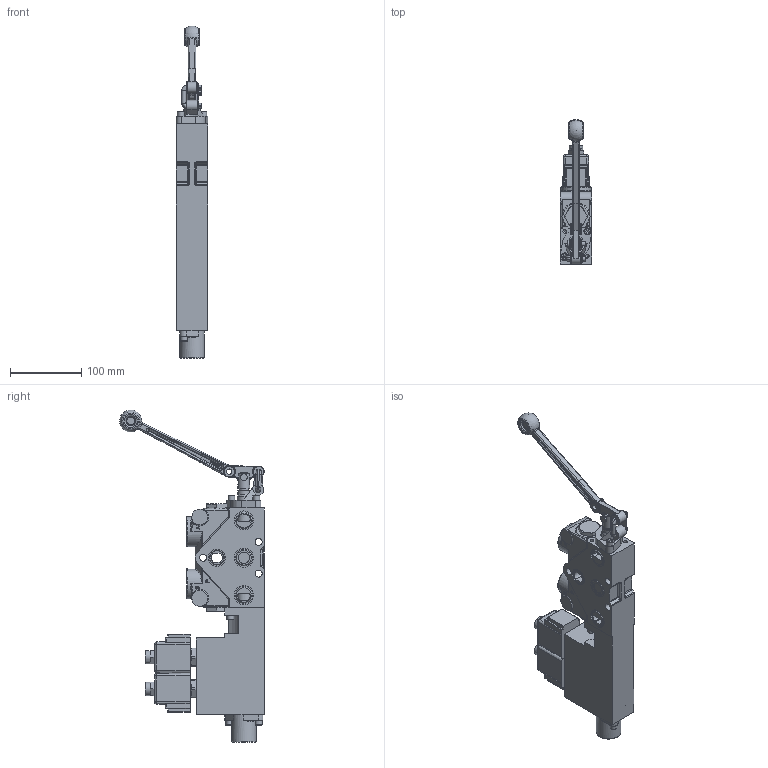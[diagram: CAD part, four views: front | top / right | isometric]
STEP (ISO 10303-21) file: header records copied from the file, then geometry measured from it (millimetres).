
FILE_DESCRIPTION((''),'2;1');
FILE_NAME('C:\Vault\Workspace\z_ShellModels\S20\20P1BA1AA-Sxxx_Shell.stp','2012-03-20T11:59:36',('PetersW'),(''),'Autodesk Inventor 2012','Autodesk Inventor 2012','');
FILE_SCHEMA(('AUTOMOTIVE_DESIGN { 1 0 10303 214 1 1 1 1 }'));
Length unit declared in the file: inch
Products named in the file (1): Part6
Bounding box: 44.45 x 203.04 x 466.15 mm (x, y, z)
Volume: 1375389.7 mm3; surface area: 179710.4 mm2
Topology: 4 solids, 8 shells, 1098 faces, 2673 edges, 1642 vertices
Faces by surface type: plane 411, cylinder 258, bspline 236, cone 99, torus 85, sphere 9
Full cylindrical faces by diameter (mm): 1.981 x2, 2.388 x1, 4.978 x2, 5.004 x6, 6.248 x1, 6.35 x2, 6.388 x2, 6.401 x1, 6.528 x1, 7.087 x2, 7.277 x1, 7.366 x2, 7.493 x2, 9.525 x8, 9.931 x3, 10.312 x1, 10.439 x2, 12.7 x1, 15.875 x4, 15.9 x2, 16.002 x2, 16.256 x2, 16.764 x2, 18.796 x2, 19.063 x1, 20.345 x2, 20.955 x2, 22.225 x5, 24.206 x1, 25.095 x2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
Entity records: 37884 total; most frequent: CARTESIAN_POINT 13419, ORIENTED_EDGE 4890, DIRECTION 4446, EDGE_CURVE 2445, AXIS2_PLACEMENT_3D 1723, VERTEX_POINT 1586, EDGE_LOOP 1355, STYLED_ITEM 1101
